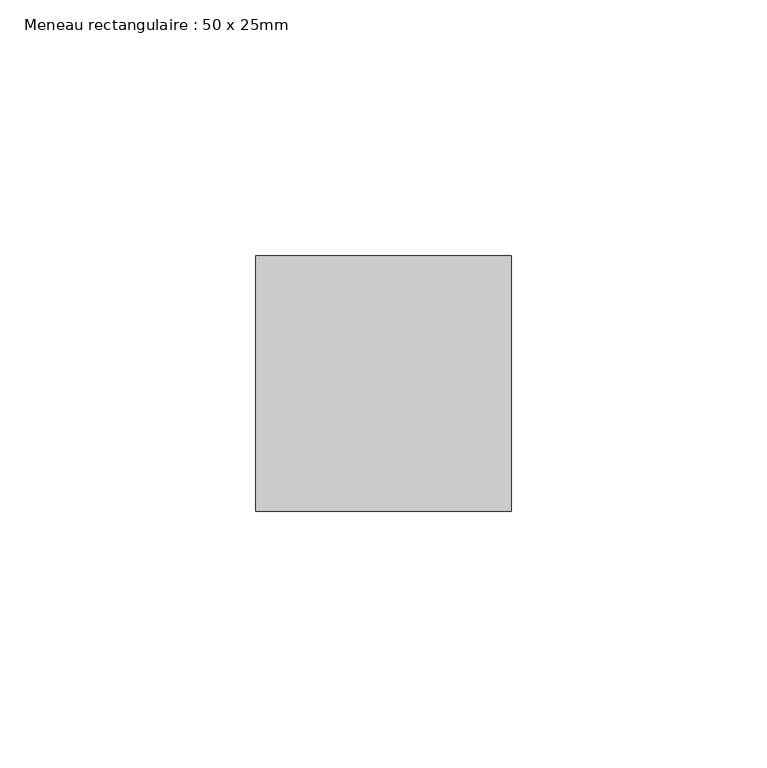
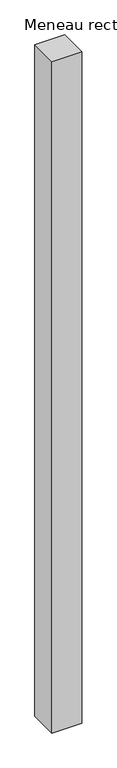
"""IFC4 building model written with IfcOpenShell, lengths in millimetres: member geometry, Meneau rectangulaire : 50 x 25mm."""

from ifc_helpers import new_model, si_unit, frame, origin, place, context, project, spatial, polyline, outline, extrude, source, transform, mapped, element, save


def meneau_rectangulaire_50_x_25mm_fcfb007e(model_context):
    return source(origin(), model_context, "Body", "SweptSolid", [
        extrude(outline(polyline([(0.0, 0.0), (0.0, -50.0), (-50.0, -50.0), (-50.0, 0.0), (0.0, 0.0)])), frame((0.0, 0.0, -1199.0), z_axis=(0.0, 0.0, 1.0), x_axis=(1.0, 0.0, 0.0)), (0.0, 0.0, 1.0), 1199.0),
    ])


if __name__ == "__main__":
    model = new_model("IFC4")
    model_context = context("Model", 3, world=origin())
    ifc_project = project(units=[si_unit("LENGTHUNIT", "METRE", prefix="MILLI")], contexts=[model_context])
    site = spatial("IfcSite", under=ifc_project)
    building = spatial("IfcBuilding", under=site)
    placement = place(None, origin())
    meneau_rectangulaire_50_x_25mm_shape = meneau_rectangulaire_50_x_25mm_fcfb007e(model_context)
    element("IfcMember", 1, ObjectType="Meneau rectangulaire : 50 x 25mm", at=placement, inside=building, context=model_context, shape_type="MappedRepresentation", body=[
        mapped(meneau_rectangulaire_50_x_25mm_shape, transform((0.0, 0.0, 0.0), x_axis=(1.0, 0.0, 0.0), y_axis=(0.0, 1.0, 0.0), z_axis=(0.0, 0.0, 1.0))),
    ])
    save(model, "model.ifc")
